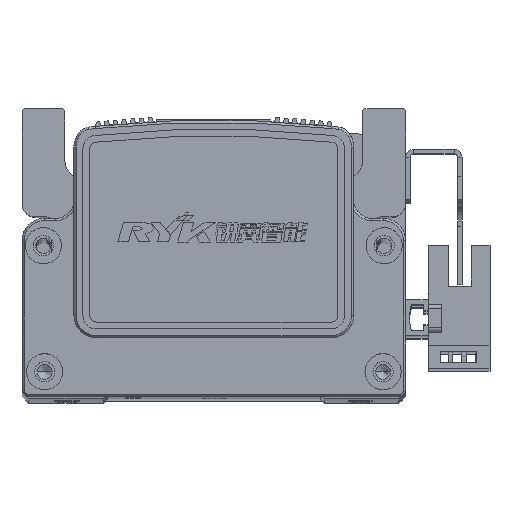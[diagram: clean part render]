
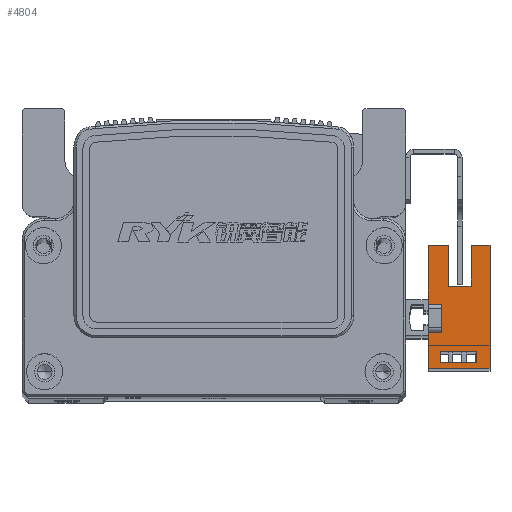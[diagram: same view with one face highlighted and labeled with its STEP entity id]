
A CAD part, top view. The second image highlights one B-rep face of the part: STEP entity #4804.
In plain terms, the highlighted planar face has unit normal (0, 0, 1) as drawn and (1, 0, 0) by its records, which use the part's own axes.
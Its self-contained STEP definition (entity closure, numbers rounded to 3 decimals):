
#671 = EDGE_LOOP ( 'NONE', ( #46284, #46336, #46168, #46221 ) ) ;
#683 = EDGE_LOOP ( 'NONE', ( #46170, #46313, #46162, #46223, #46273, #46173, #46258, #46248, #46197, #46238, #46205, #46164 ) ) ;
#4804 = ADVANCED_FACE ( 'NONE', ( #29837, #29789 ), #41395, .T. ) ;
#4991 = EDGE_CURVE ( 'NONE', #7091, #7168, #42753, .T. ) ;
#5032 = EDGE_CURVE ( 'NONE', #7175, #7138, #17197, .T. ) ;
#5040 = EDGE_CURVE ( 'NONE', #7147, #7177, #17253, .T. ) ;
#5051 = EDGE_CURVE ( 'NONE', #7189, #7193, #17225, .T. ) ;
#5068 = EDGE_CURVE ( 'NONE', #6451, #6447, #17252, .T. ) ;
#5112 = EDGE_CURVE ( 'NONE', #7155, #7175, #26683, .T. ) ;
#5117 = EDGE_CURVE ( 'NONE', #7193, #7091, #26693, .T. ) ;
#5153 = EDGE_CURVE ( 'NONE', #7138, #6451, #42038, .T. ) ;
#5167 = EDGE_CURVE ( 'NONE', #7153, #7194, #26751, .T. ) ;
#5195 = EDGE_CURVE ( 'NONE', #7185, #7147, #12552, .T. ) ;
#5202 = EDGE_CURVE ( 'NONE', #7185, #7155, #12622, .T. ) ;
#5204 = EDGE_CURVE ( 'NONE', #6447, #7168, #12564, .T. ) ;
#5210 = EDGE_CURVE ( 'NONE', #7194, #6452, #12753, .T. ) ;
#5212 = EDGE_CURVE ( 'NONE', #7142, #7153, #12796, .T. ) ;
#5236 = EDGE_CURVE ( 'NONE', #7177, #7189, #12738, .T. ) ;
#5238 = EDGE_CURVE ( 'NONE', #6452, #7142, #12712, .T. ) ;
#6447 = VERTEX_POINT ( 'NONE', #22899 ) ;
#6451 = VERTEX_POINT ( 'NONE', #23025 ) ;
#6452 = VERTEX_POINT ( 'NONE', #23027 ) ;
#7091 = VERTEX_POINT ( 'NONE', #22222 ) ;
#7138 = VERTEX_POINT ( 'NONE', #22279 ) ;
#7142 = VERTEX_POINT ( 'NONE', #22253 ) ;
#7147 = VERTEX_POINT ( 'NONE', #22292 ) ;
#7153 = VERTEX_POINT ( 'NONE', #22259 ) ;
#7155 = VERTEX_POINT ( 'NONE', #22286 ) ;
#7168 = VERTEX_POINT ( 'NONE', #22271 ) ;
#7175 = VERTEX_POINT ( 'NONE', #22296 ) ;
#7177 = VERTEX_POINT ( 'NONE', #22276 ) ;
#7185 = VERTEX_POINT ( 'NONE', #22681 ) ;
#7189 = VERTEX_POINT ( 'NONE', #22162 ) ;
#7193 = VERTEX_POINT ( 'NONE', #22164 ) ;
#7194 = VERTEX_POINT ( 'NONE', #22168 ) ;
#11851 = AXIS2_PLACEMENT_3D ( 'NONE', #41374, #41442, #41369 ) ;
#12552 = LINE ( 'NONE', #35270, #12560 ) ;
#12560 = VECTOR ( 'NONE', #35273, 1000. ) ;
#12564 = LINE ( 'NONE', #35286, #12708 ) ;
#12622 = LINE ( 'NONE', #35298, #12765 ) ;
#12708 = VECTOR ( 'NONE', #35305, 1000. ) ;
#12712 = LINE ( 'NONE', #35431, #12739 ) ;
#12738 = LINE ( 'NONE', #35381, #12795 ) ;
#12739 = VECTOR ( 'NONE', #35461, 1000. ) ;
#12753 = LINE ( 'NONE', #35338, #12779 ) ;
#12765 = VECTOR ( 'NONE', #35312, 1000. ) ;
#12779 = VECTOR ( 'NONE', #35328, 1000. ) ;
#12790 = VECTOR ( 'NONE', #35339, 1000. ) ;
#12795 = VECTOR ( 'NONE', #35376, 1000. ) ;
#12796 = LINE ( 'NONE', #35314, #12790 ) ;
#17165 = VECTOR ( 'NONE', #36748, 1000. ) ;
#17197 = LINE ( 'NONE', #36767, #17165 ) ;
#17206 = VECTOR ( 'NONE', #36822, 1000. ) ;
#17225 = LINE ( 'NONE', #36827, #17206 ) ;
#17240 = VECTOR ( 'NONE', #36784, 1000. ) ;
#17252 = LINE ( 'NONE', #36858, #17258 ) ;
#17253 = LINE ( 'NONE', #36755, #17240 ) ;
#17258 = VECTOR ( 'NONE', #36865, 1000. ) ;
#22162 = CARTESIAN_POINT ( 'NONE',  ( 3.2, -3.1, 0. ) ) ;
#22164 = CARTESIAN_POINT ( 'NONE',  ( 3.2, 3.1, 0. ) ) ;
#22168 = CARTESIAN_POINT ( 'NONE',  ( 3.2, -7.33, -7.7 ) ) ;
#22222 = CARTESIAN_POINT ( 'NONE',  ( 3.2, 3.1, 3. ) ) ;
#22253 = CARTESIAN_POINT ( 'NONE',  ( 3.2, -9.83, 0.3 ) ) ;
#22259 = CARTESIAN_POINT ( 'NONE',  ( 3.2, -9.83, -7.7 ) ) ;
#22271 = CARTESIAN_POINT ( 'NONE',  ( 3.2, 16.1, 3. ) ) ;
#22276 = CARTESIAN_POINT ( 'NONE',  ( 3.2, -3.1, 3. ) ) ;
#22279 = CARTESIAN_POINT ( 'NONE',  ( 3.2, 7.1, -6.5 ) ) ;
#22286 = CARTESIAN_POINT ( 'NONE',  ( 3.2, 16.1, -10.7 ) ) ;
#22292 = CARTESIAN_POINT ( 'NONE',  ( 3.2, -11.1, 3. ) ) ;
#22296 = CARTESIAN_POINT ( 'NONE',  ( 3.2, 16.1, -6.5 ) ) ;
#22681 = CARTESIAN_POINT ( 'NONE',  ( 3.2, -11.1, -10.7 ) ) ;
#22899 = CARTESIAN_POINT ( 'NONE',  ( 3.2, 16.1, -1.5 ) ) ;
#23025 = CARTESIAN_POINT ( 'NONE',  ( 3.2, 7.1, -1.5 ) ) ;
#23027 = CARTESIAN_POINT ( 'NONE',  ( 3.2, -7.33, 0.3 ) ) ;
#26683 = LINE ( 'NONE', #37002, #26686 ) ;
#26686 = VECTOR ( 'NONE', #37012, 1000. ) ;
#26693 = LINE ( 'NONE', #36987, #26715 ) ;
#26715 = VECTOR ( 'NONE', #36986, 1000. ) ;
#26751 = LINE ( 'NONE', #37130, #26761 ) ;
#26761 = VECTOR ( 'NONE', #37131, 1000. ) ;
#29789 = FACE_BOUND ( 'NONE', #671, .T. ) ;
#29837 = FACE_OUTER_BOUND ( 'NONE', #683, .T. ) ;
#35270 = CARTESIAN_POINT ( 'NONE',  ( 3.2, -11.1, 3. ) ) ;
#35273 = DIRECTION ( 'NONE',  ( 0., 0., 1. ) ) ;
#35286 = CARTESIAN_POINT ( 'NONE',  ( 3.2, 16.1, -10.7 ) ) ;
#35298 = CARTESIAN_POINT ( 'NONE',  ( 3.2, 16.1, -10.7 ) ) ;
#35305 = DIRECTION ( 'NONE',  ( 0., 0., 1. ) ) ;
#35312 = DIRECTION ( 'NONE',  ( 0., 1., 0. ) ) ;
#35314 = CARTESIAN_POINT ( 'NONE',  ( 3.2, -9.83, -10.7 ) ) ;
#35328 = DIRECTION ( 'NONE',  ( 0., 0., 1. ) ) ;
#35338 = CARTESIAN_POINT ( 'NONE',  ( 3.2, -7.33, -10.7 ) ) ;
#35339 = DIRECTION ( 'NONE',  ( 0., 0., -1. ) ) ;
#35376 = DIRECTION ( 'NONE',  ( 0., 0., -1. ) ) ;
#35381 = CARTESIAN_POINT ( 'NONE',  ( 3.2, -3.1, 3. ) ) ;
#35431 = CARTESIAN_POINT ( 'NONE',  ( 3.2, 16.1, 0.3 ) ) ;
#35461 = DIRECTION ( 'NONE',  ( 0., -1., 0. ) ) ;
#36748 = DIRECTION ( 'NONE',  ( 0., -1., 0. ) ) ;
#36755 = CARTESIAN_POINT ( 'NONE',  ( 3.2, 16.1, 3. ) ) ;
#36767 = CARTESIAN_POINT ( 'NONE',  ( 3.2, 25.1, -6.5 ) ) ;
#36784 = DIRECTION ( 'NONE',  ( 0., 1., 0. ) ) ;
#36822 = DIRECTION ( 'NONE',  ( 0., 1., 0. ) ) ;
#36827 = CARTESIAN_POINT ( 'NONE',  ( 3.2, 0., 0. ) ) ;
#36858 = CARTESIAN_POINT ( 'NONE',  ( 3.2, 25.1, -1.5 ) ) ;
#36865 = DIRECTION ( 'NONE',  ( 0., 1., 0. ) ) ;
#36986 = DIRECTION ( 'NONE',  ( 0., 0., 1. ) ) ;
#36987 = CARTESIAN_POINT ( 'NONE',  ( 3.2, 3.1, 3. ) ) ;
#37002 = CARTESIAN_POINT ( 'NONE',  ( 3.2, 16.1, -10.7 ) ) ;
#37012 = DIRECTION ( 'NONE',  ( 0., 0., 1. ) ) ;
#37085 = DIRECTION ( 'NONE',  ( 0., 0., 1. ) ) ;
#37095 = CARTESIAN_POINT ( 'NONE',  ( 3.2, 7.1, -6.5 ) ) ;
#37130 = CARTESIAN_POINT ( 'NONE',  ( 3.2, 16.1, -7.7 ) ) ;
#37131 = DIRECTION ( 'NONE',  ( 0., 1., 0. ) ) ;
#37393 = CARTESIAN_POINT ( 'NONE',  ( 3.2, 16.1, 3. ) ) ;
#37409 = DIRECTION ( 'NONE',  ( 0., 1., 0. ) ) ;
#41369 = DIRECTION ( 'NONE',  ( 0., 1., 0. ) ) ;
#41374 = CARTESIAN_POINT ( 'NONE',  ( 3.2, 16.1, -10.7 ) ) ;
#41395 = PLANE ( 'NONE',  #11851 ) ;
#41442 = DIRECTION ( 'NONE',  ( 1., 0., 0. ) ) ;
#42038 = LINE ( 'NONE', #37095, #42041 ) ;
#42041 = VECTOR ( 'NONE', #37085, 1000. ) ;
#42752 = VECTOR ( 'NONE', #37409, 1000. ) ;
#42753 = LINE ( 'NONE', #37393, #42752 ) ;
#46162 = ORIENTED_EDGE ( 'NONE', *, *, #5068, .T. ) ;
#46164 = ORIENTED_EDGE ( 'NONE', *, *, #5112, .T. ) ;
#46168 = ORIENTED_EDGE ( 'NONE', *, *, #5167, .F. ) ;
#46170 = ORIENTED_EDGE ( 'NONE', *, *, #5032, .T. ) ;
#46173 = ORIENTED_EDGE ( 'NONE', *, *, #5117, .F. ) ;
#46197 = ORIENTED_EDGE ( 'NONE', *, *, #5040, .F. ) ;
#46205 = ORIENTED_EDGE ( 'NONE', *, *, #5202, .T. ) ;
#46221 = ORIENTED_EDGE ( 'NONE', *, *, #5212, .F. ) ;
#46223 = ORIENTED_EDGE ( 'NONE', *, *, #5204, .T. ) ;
#46238 = ORIENTED_EDGE ( 'NONE', *, *, #5195, .F. ) ;
#46248 = ORIENTED_EDGE ( 'NONE', *, *, #5236, .F. ) ;
#46258 = ORIENTED_EDGE ( 'NONE', *, *, #5051, .F. ) ;
#46273 = ORIENTED_EDGE ( 'NONE', *, *, #4991, .F. ) ;
#46284 = ORIENTED_EDGE ( 'NONE', *, *, #5238, .F. ) ;
#46313 = ORIENTED_EDGE ( 'NONE', *, *, #5153, .T. ) ;
#46336 = ORIENTED_EDGE ( 'NONE', *, *, #5210, .F. ) ;
